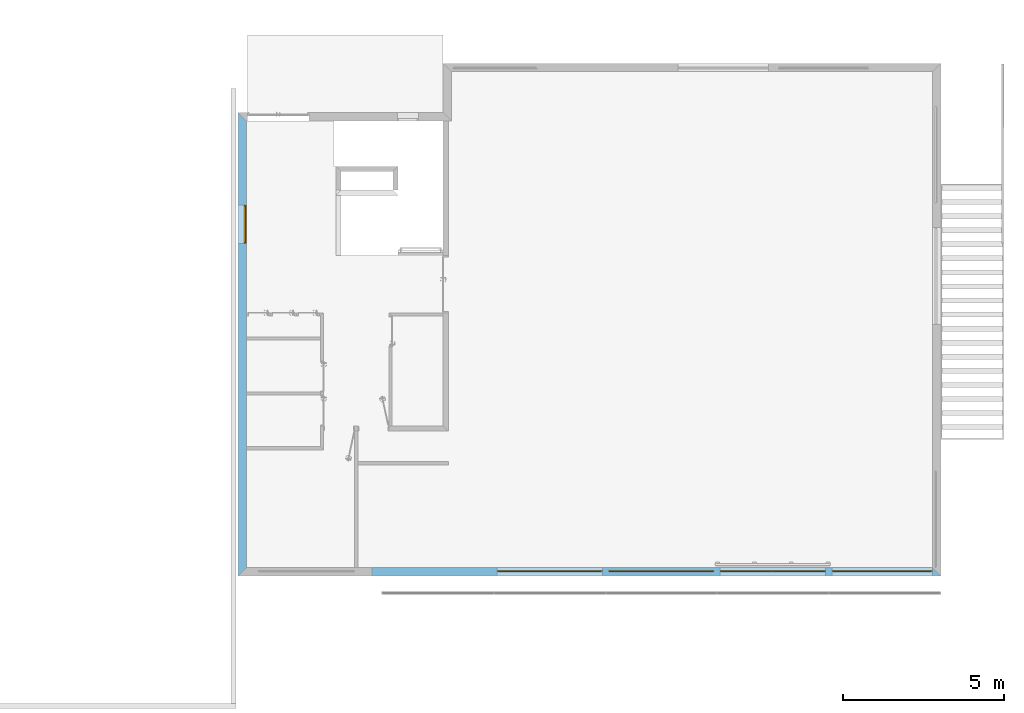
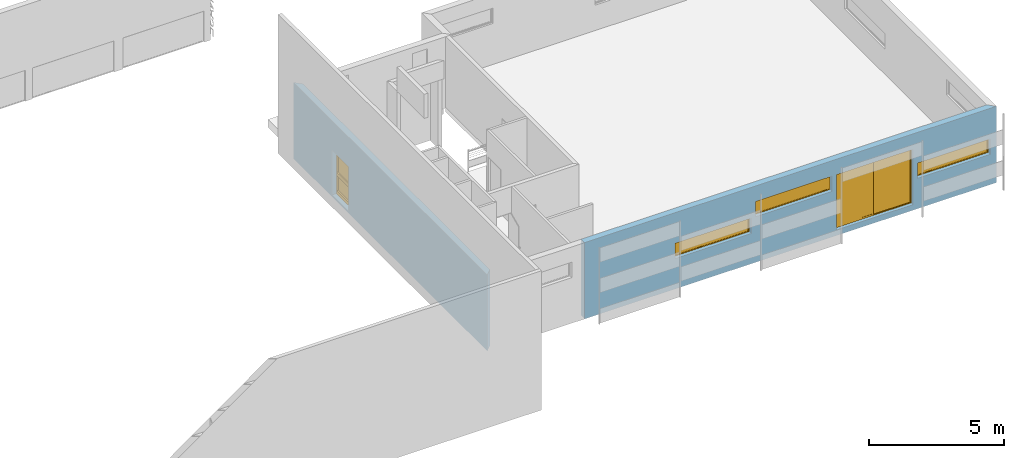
# One storey, part 8 of 14: 5 windows, 5 openings, plus 2 elements that do not belong to this part.
"""IFC2X3 building model written with IfcOpenShell, lengths in metres."""

from ifc_helpers import new_model, entity, si_unit, converted_unit, money_unit, direction, frame, origin_with_axes, place, context, subcontext, project, spatial, polyline, outline, extrude, open_shell, faceted_brep, surface_model, material, layer, layer_set, layer_usage, type_object, element, fill, save


model = new_model("IFC2X3")

# Units and contexts
model_context = context("Model", 3, precision=1e-05, world=origin_with_axes(), true_north=direction((0.0, 1.0)))
body_context = subcontext(model_context, "Body", "Model", "MODEL_VIEW")
ifc_project = project(units=[si_unit("LENGTHUNIT", "METRE"), si_unit("AREAUNIT", "SQUARE_METRE"), si_unit("VOLUMEUNIT", "CUBIC_METRE"), converted_unit("PLANEANGLEUNIT", "DEGREE", entity("IfcPlaneAngleMeasure", 0.0174532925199), si_unit("PLANEANGLEUNIT", "RADIAN"), dimensions=[0, 0, 0, 0, 0, 0, 0]), si_unit("SOLIDANGLEUNIT", "STERADIAN"), money_unit("EUR"), converted_unit("TIMEUNIT", "Year", entity("IfcTimeMeasure", 31556926.0), si_unit("TIMEUNIT", "SECOND"), dimensions=[0, 0, 0, 0, 0, 0, 0]), si_unit("MASSUNIT", "GRAM"), si_unit("THERMODYNAMICTEMPERATUREUNIT", "DEGREE_CELSIUS"), si_unit("LUMINOUSINTENSITYUNIT", "LUMEN")], contexts=[model_context])

# Site, building, storey
site_placement = place(None, origin_with_axes())
site = spatial("IfcSite", under=ifc_project, at=site_placement, Name="Site", CompositionType="ELEMENT")
building_placement = place(site_placement, origin_with_axes())
building = spatial("IfcBuilding", under=site, at=building_placement, Name="Bâtiment", CompositionType="ELEMENT")
storey_placement = place(building_placement, frame((0.0, 0.0, 3.0), z_axis=(0.0, 0.0, 1.0), x_axis=(1.0, 0.0, 0.0)))
storey = spatial("IfcBuildingStorey", under=building, at=storey_placement, Name="NIVEAU HAUT ENTRÉE", CompositionType="ELEMENT", Elevation=3.0)

# Wall, opening, window
ifc_material_1 = material(Name="Hachure solide* 2593434267")
ifc_layer_1 = layer(ifc_material_1, 0.16, ventilated="UNKNOWN")
ifc_material_2 = material(Name="Empty Fill 290923149")
ifc_layer_2 = layer(ifc_material_2, 0.08, ventilated="UNKNOWN")
ifc_material_3 = material(Name="Hachure solide* 3992800808")
ifc_layer_3 = layer(ifc_material_3, 0.02, ventilated="UNKNOWN")
ifc_layer_set_1 = layer_set([ifc_layer_1, ifc_layer_2, ifc_layer_3], Name="•GYMN 16+10 (1)")
ifc_layer_usage_1 = layer_usage(ifc_layer_set_1, "AXIS2", "POSITIVE", 0.0)
wall_type = type_object("IfcWallType", Name="•GYMN 16+10 260", PredefinedType="NOTDEFINED")
wall_1_placement = place(storey_placement, frame((45.478457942, 20.228815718, -0.25), z_axis=(0.0, 0.0, 1.0), x_axis=(0.0, -1.0, 0.0)))
wall_1 = element("IfcWallStandardCase", 1, at=wall_1_placement, inside=storey, type_object=wall_type, material=ifc_layer_usage_1, Name="Mur-004", context=body_context, shape_type="SweptSolid", body=[
    extrude(outline(polyline([(0.0, 0.0), (14.36, 0.0), (14.1, 0.26), (0.26, 0.26), (0.0, 0.0)])), origin_with_axes(), (0.0, 0.0, 1.0), 3.45),
])
opening_1_placement = place(wall_1_placement, frame((3.45885483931, 0.0, 0.1), z_axis=(0.0, 0.0, 1.0), x_axis=(1.0, 0.0, 0.0)))
opening_1 = element("IfcOpeningElement", 2, at=opening_1_placement, cuts=wall_1, Name="Fen-007", context=body_context, shape_type="SweptSolid", body=[
    extrude(outline(polyline([(0.6, -2.0), (0.6, 0.0), (-0.6, 0.0), (-0.6, -2.0), (0.6, -2.0)])), frame((0.0, 0.26, 0.0), z_axis=(0.0, 1.0, 0.0), x_axis=(1.0, 0.0, 0.0)), (0.0, 0.0, 1.0), 0.28),
    extrude(outline(polyline([(0.6, 0.0), (0.6, 2.0), (-0.6, 2.0), (-0.6, 0.0), (0.6, 0.0)])), frame((0.0, 0.26, 0.0), z_axis=(0.0, -1.0, 0.0), x_axis=(1.0, 0.0, 0.0)), (0.0, 0.0, 1.0), 0.28),
])
ifc_material_4 = material(Name="Sans Trame")
window_style_1 = type_object("IfcWindowStyle", Name="F Devanture 1 10", ConstructionType="NOTDEFINED", OperationType="USERDEFINED", ParameterTakesPrecedence=False, Sizeable=False)
window_1_placement = place(opening_1_placement, frame((-0.6, 0.0, 0.0), z_axis=(0.0, 0.0, 1.0), x_axis=(1.0, 0.0, 0.0)))
window_1 = element("IfcWindow", 3, at=window_1_placement, inside=storey, type_object=window_style_1, material=ifc_material_4, Name="Fen-007", OverallHeight=2.0, OverallWidth=1.2, context=body_context, shape_type="Brep", body=[
    faceted_brep([(0.04, 0.18, 0.825), (1.16, 0.18, 0.825), (1.16, 0.18, 0.975), (0.04, 0.18, 0.975), (0.04, 0.26, 0.825), (1.16, 0.26, 0.825), (1.16, 0.26, 0.975), (0.04, 0.26, 0.975)], [[[0, 1, 2, 3]], [[4, 5, 1, 0]], [[1, 5, 6, 2]], [[3, 2, 6, 7]], [[7, 4, 0, 3]], [[7, 6, 5, 4]]]),
    faceted_brep([(1.2, 0.26, 1.96), (1.2, 0.18, 1.96), (1.2, 0.18, 0.15), (1.2, 0.26, 0.15), (1.16, 0.26, 1.96), (1.16, 0.18, 1.96), (1.16, 0.18, 0.15), (1.16, 0.26, 0.15)], [[[0, 1, 2, 3]], [[4, 5, 1, 0]], [[1, 5, 6, 2]], [[3, 2, 6, 7]], [[0, 3, 7, 4]], [[7, 6, 5, 4]]]),
    faceted_brep([(0.0, 0.26, 0.15), (0.0, 0.18, 0.15), (0.0, 0.18, 1.96), (0.0, 0.26, 1.96), (0.04, 0.26, 0.15), (0.04, 0.18, 0.15), (0.04, 0.18, 1.96), (0.04, 0.26, 1.96)], [[[0, 1, 2, 3]], [[4, 5, 1, 0]], [[1, 5, 6, 2]], [[3, 2, 6, 7]], [[0, 3, 7, 4]], [[7, 6, 5, 4]]]),
    faceted_brep([(0.0, 0.26, 2.0), (0.0, 0.18, 2.0), (1.2, 0.18, 2.0), (1.2, 0.26, 2.0), (0.0, 0.26, 1.96), (0.0, 0.18, 1.96), (0.04, 0.18, 1.96), (1.16, 0.18, 1.96), (1.2, 0.18, 1.96), (1.2, 0.26, 1.96), (1.16, 0.26, 1.96), (0.04, 0.26, 1.96)], [[[0, 1, 2, 3]], [[4, 5, 1, 0]], [[1, 5, 6, 7, 8, 2]], [[3, 2, 8, 9]], [[0, 3, 9, 10, 11, 4]], [[11, 6, 5, 4]], [[10, 7, 6, 11]], [[9, 8, 7, 10]]]),
    faceted_brep([(0.0, 0.26, 0.15), (0.0, 0.18, 0.15), (0.04, 0.18, 0.15), (0.04, 0.26, 0.15), (0.0, 0.26, 0.0), (0.0, 0.18, 0.0), (1.2, 0.18, 0.0), (1.2, 0.18, 0.15), (1.16, 0.18, 0.15), (1.16, 0.26, 0.15), (1.2, 0.26, 0.15), (1.2, 0.26, 0.0)], [[[0, 1, 2, 3]], [[4, 5, 1, 0]], [[1, 5, 6, 7, 8, 2]], [[3, 2, 8, 9]], [[0, 3, 9, 10, 11, 4]], [[11, 6, 5, 4]], [[10, 7, 6, 11]], [[9, 8, 7, 10]]]),
    faceted_brep([(1.16, 0.25, 0.15), (1.16, 0.24, 0.15), (0.04, 0.24, 0.15), (0.04, 0.25, 0.15), (1.16, 0.25, 0.825), (1.16, 0.24, 0.825), (0.04, 0.24, 0.825), (0.04, 0.25, 0.825)], [[[0, 1, 2, 3]], [[4, 5, 1, 0]], [[1, 5, 6, 2]], [[3, 2, 6, 7]], [[0, 3, 7, 4]], [[7, 6, 5, 4]]]),
    faceted_brep([(1.16, 0.25, 0.975), (1.16, 0.24, 0.975), (0.04, 0.24, 0.975), (0.04, 0.25, 0.975), (1.16, 0.25, 1.96), (1.16, 0.24, 1.96), (0.04, 0.24, 1.96), (0.04, 0.25, 1.96)], [[[0, 1, 2, 3]], [[4, 5, 1, 0]], [[1, 5, 6, 2]], [[3, 2, 6, 7]], [[0, 3, 7, 4]], [[7, 6, 5, 4]]]),
])
fill(opening_1, window_1)

# Wall, openings, windows
ifc_layer_4 = layer(ifc_material_3, 0.02, ventilated="UNKNOWN")
ifc_layer_5 = layer(ifc_material_2, 0.08, ventilated="UNKNOWN")
ifc_layer_6 = layer(ifc_material_1, 0.16, ventilated="UNKNOWN")
ifc_layer_set_2 = layer_set([ifc_layer_4, ifc_layer_5, ifc_layer_6], Name="•GYMN 16+10")
ifc_layer_usage_2 = layer_usage(ifc_layer_set_2, "AXIS2", "POSITIVE", -0.26)
wall_2_placement = place(storey_placement, frame((67.258457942, 5.86881571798, -0.25), z_axis=(0.0, 0.0, 1.0), x_axis=(-1.0, 0.0, 0.0)))
wall_2 = element("IfcWallStandardCase", 4, at=wall_2_placement, inside=storey, type_object=wall_type, material=ifc_layer_usage_2, Name="Mur-004", context=body_context, shape_type="SweptSolid", body=[
    extrude(outline(polyline([(0.26, -0.26), (17.62, -0.26), (17.62, 0.0), (0.0, 0.0), (0.26, -0.26)])), origin_with_axes(), (0.0, 0.0, 1.0), 3.45),
])
opening_2_placement = place(wall_2_placement, frame((8.6645, 0.0, 2.0608240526), z_axis=(0.0, 0.0, 1.0), x_axis=(1.0, 0.0, 0.0)))
opening_2 = element("IfcOpeningElement", 5, at=opening_2_placement, cuts=wall_2, Name="Fen-026", context=body_context, shape_type="SweptSolid", body=[
    extrude(outline(polyline([(1.6345, 0.7), (-1.6345, 0.7), (-1.6345, 0.0), (1.6345, 0.0), (1.6345, 0.7)])), frame((0.0, -0.18, 0.0), z_axis=(0.0, 1.0, 0.0), x_axis=(-1.0, 0.0, 0.0)), (0.0, 0.0, 1.0), 0.44),
    extrude(outline(polyline([(1.6345, 0.0), (-1.6345, 0.0), (-1.6345, -0.7), (1.6345, -0.7), (1.6345, 0.0)])), frame((0.0, -0.18, 0.0), z_axis=(0.0, -1.0, 0.0), x_axis=(-1.0, 0.0, 0.0)), (0.0, 0.0, 1.0), 0.34),
])
opening_3_placement = place(wall_2_placement, frame((12.1210306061, 0.0, 1.37), z_axis=(0.0, 0.0, 1.0), x_axis=(1.0, 0.0, 0.0)))
opening_3 = element("IfcOpeningElement", 6, at=opening_3_placement, cuts=wall_2, Name="Fen-026", context=body_context, shape_type="SweptSolid", body=[
    extrude(outline(polyline([(1.635969, 0.7), (-1.635969, 0.7), (-1.635969, 0.0), (1.635969, 0.0), (1.635969, 0.7)])), frame((0.0, -0.18, 0.0), z_axis=(0.0, 1.0, 0.0), x_axis=(-1.0, 0.0, 0.0)), (0.0, 0.0, 1.0), 0.44),
    extrude(outline(polyline([(1.635969, 0.0), (-1.635969, 0.0), (-1.635969, -0.7), (1.635969, -0.7), (1.635969, 0.0)])), frame((0.0, -0.18, 0.0), z_axis=(0.0, -1.0, 0.0), x_axis=(-1.0, 0.0, 0.0)), (0.0, 0.0, 1.0), 0.34),
])
opening_4_placement = place(wall_2_placement, frame((1.8165, 0.0, 1.37), z_axis=(0.0, 0.0, 1.0), x_axis=(1.0, 0.0, 0.0)))
opening_4 = element("IfcOpeningElement", 7, at=opening_4_placement, cuts=wall_2, Name="Fen-026", context=body_context, shape_type="SweptSolid", body=[
    extrude(outline(polyline([(-1.5565, 0.7), (-1.5565, 0.0), (1.5565, 0.0), (1.5565, 0.7), (-1.5565, 0.7)])), frame((0.0, -0.18, 0.0), z_axis=(0.0, 1.0, 0.0), x_axis=(-1.0, 0.0, 0.0)), (0.0, 0.0, 1.0), 0.44),
    extrude(outline(polyline([(-1.5565, 0.0), (-1.5565, -0.7), (1.5565, -0.7), (1.5565, 0.0), (-1.5565, 0.0)])), frame((0.0, -0.18, 0.0), z_axis=(0.0, -1.0, 0.0), x_axis=(-1.0, 0.0, 0.0)), (0.0, 0.0, 1.0), 0.34),
])
opening_5_placement = place(wall_2_placement, frame((5.20601755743, 0.0, 0.25), z_axis=(0.0, 0.0, 1.0), x_axis=(1.0, 0.0, 0.0)))
opening_5 = element("IfcOpeningElement", 8, at=opening_5_placement, cuts=wall_2, Name="Fen-026", context=body_context, shape_type="SweptSolid", body=[
    extrude(outline(polyline([(1.64, 2.510824), (-1.64, 2.510824), (-1.64, 0.0), (1.64, 0.0), (1.64, 2.510824)])), frame((0.0, -0.18, 0.0), z_axis=(0.0, 1.0, 0.0), x_axis=(-1.0, 0.0, 0.0)), (0.0, 0.0, 1.0), 0.44),
    extrude(outline(polyline([(1.64, 0.0), (-1.64, 0.0), (-1.64, -2.510824), (1.64, -2.510824), (1.64, 0.0)])), frame((0.0, -0.18, 0.0), z_axis=(0.0, -1.0, 0.0), x_axis=(-1.0, 0.0, 0.0)), (0.0, 0.0, 1.0), 0.34),
])
window_style_2 = type_object("IfcWindowStyle", Name="Fen double hor coul 10", ConstructionType="NOTDEFINED", OperationType="DOUBLE_PANEL_VERTICAL", ParameterTakesPrecedence=False, Sizeable=False)
window_2_placement = place(opening_5_placement, frame((1.64, 0.0, 0.0), z_axis=(0.0, 0.0, 1.0), x_axis=(-1.0, 0.0, 0.0)))
window_2 = element("IfcWindow", 9, at=window_2_placement, inside=storey, type_object=window_style_2, material=ifc_material_4, Name="Fen-026", OverallHeight=2.51082, OverallWidth=3.28, context=body_context, shape_type="SurfaceModel", body=[
    faceted_brep([(3.24, 0.18, 0.04), (3.24, 0.13, 0.04), (3.24, 0.13, 2.470824), (3.24, 0.18, 2.470824), (3.28, 0.18, 0.04), (3.28, 0.13, 0.04), (3.28, 0.13, 2.470824), (3.28, 0.18, 2.470824)], [[[0, 1, 2, 3]], [[4, 5, 1, 0]], [[1, 5, 6, 2]], [[3, 2, 6, 7]], [[0, 3, 7, 4]], [[7, 6, 5, 4]]]),
    faceted_brep([(0.0, 0.18, 0.04), (0.0, 0.13, 0.04), (0.0, 0.13, 2.470824), (0.0, 0.18, 2.470824), (0.04, 0.18, 0.04), (0.04, 0.13, 0.04), (0.04, 0.13, 2.470824), (0.04, 0.18, 2.470824)], [[[0, 1, 2, 3]], [[4, 5, 1, 0]], [[1, 5, 6, 2]], [[3, 2, 6, 7]], [[0, 3, 7, 4]], [[7, 6, 5, 4]]]),
    faceted_brep([(3.28, 0.18, 0.0), (3.28, 0.13, 0.0), (0.0, 0.13, 0.0), (0.0, 0.18, 0.0), (3.28, 0.18, 0.04), (3.28, 0.13, 0.04), (3.24, 0.13, 0.04), (0.04, 0.13, 0.04), (0.0, 0.13, 0.04), (0.0, 0.18, 0.04), (0.04, 0.18, 0.04), (3.24, 0.18, 0.04)], [[[0, 1, 2, 3]], [[4, 5, 1, 0]], [[1, 5, 6, 7, 8, 2]], [[3, 2, 8, 9]], [[0, 3, 9, 10, 11, 4]], [[11, 6, 5, 4]], [[10, 7, 6, 11]], [[9, 8, 7, 10]]]),
    faceted_brep([(3.28, 0.18, 2.470824), (3.28, 0.13, 2.470824), (3.24, 0.13, 2.470824), (3.24, 0.18, 2.470824), (3.28, 0.18, 2.510824), (3.28, 0.13, 2.510824), (0.0, 0.13, 2.510824), (0.0, 0.13, 2.470824), (0.04, 0.13, 2.470824), (0.04, 0.18, 2.470824), (0.0, 0.18, 2.470824), (0.0, 0.18, 2.510824)], [[[0, 1, 2, 3]], [[4, 5, 1, 0]], [[1, 5, 6, 7, 8, 2]], [[3, 2, 8, 9]], [[0, 3, 9, 10, 11, 4]], [[11, 6, 5, 4]], [[10, 7, 6, 11]], [[9, 8, 7, 10]]]),
    faceted_brep([(3.2, 0.18, 0.08), (3.2, 0.155, 0.08), (3.2, 0.155, 2.430824), (3.2, 0.18, 2.430824), (3.24, 0.18, 0.08), (3.24, 0.155, 0.08), (3.24, 0.155, 2.430824), (3.24, 0.18, 2.430824)], [[[0, 1, 2, 3]], [[4, 5, 1, 0]], [[1, 5, 6, 2]], [[3, 2, 6, 7]], [[0, 3, 7, 4]], [[7, 6, 5, 4]]]),
    faceted_brep([(1.62, 0.18, 0.08), (1.62, 0.155, 0.08), (1.62, 0.155, 2.430824), (1.62, 0.18, 2.430824), (1.66, 0.18, 0.08), (1.66, 0.155, 0.08), (1.66, 0.155, 2.430824), (1.66, 0.18, 2.430824)], [[[0, 1, 2, 3]], [[4, 5, 1, 0]], [[1, 5, 6, 2]], [[3, 2, 6, 7]], [[0, 3, 7, 4]], [[7, 6, 5, 4]]]),
    faceted_brep([(1.62, 0.18, 0.04), (1.62, 0.155, 0.04), (1.62, 0.155, 0.08), (1.62, 0.18, 0.08), (3.24, 0.18, 0.04), (3.24, 0.155, 0.04), (3.24, 0.155, 0.08), (3.2, 0.155, 0.08), (1.66, 0.155, 0.08), (1.66, 0.18, 0.08), (3.2, 0.18, 0.08), (3.24, 0.18, 0.08)], [[[0, 1, 2, 3]], [[4, 5, 1, 0]], [[1, 5, 6, 7, 8, 2]], [[3, 2, 8, 9]], [[0, 3, 9, 10, 11, 4]], [[11, 6, 5, 4]], [[10, 7, 6, 11]], [[9, 8, 7, 10]]]),
    faceted_brep([(3.24, 0.18, 2.470824), (3.24, 0.155, 2.470824), (3.24, 0.155, 2.430824), (3.24, 0.18, 2.430824), (1.62, 0.18, 2.470824), (1.62, 0.155, 2.470824), (1.62, 0.155, 2.430824), (1.66, 0.155, 2.430824), (3.2, 0.155, 2.430824), (3.2, 0.18, 2.430824), (1.66, 0.18, 2.430824), (1.62, 0.18, 2.430824)], [[[0, 1, 2, 3]], [[4, 5, 1, 0]], [[1, 5, 6, 7, 8, 2]], [[3, 2, 8, 9]], [[0, 3, 9, 10, 11, 4]], [[11, 6, 5, 4]], [[10, 7, 6, 11]], [[9, 8, 7, 10]]]),
    surface_model("IfcShellBasedSurfaceModel", [(3.2, 0.1775, 0.08), (1.66, 0.1775, 0.08), (1.66, 0.1775, 2.430824), (3.2, 0.1775, 2.430824)], [open_shell([[[0, 1, 2, 3]]])]),
    surface_model("IfcShellBasedSurfaceModel", [(3.2, 0.1575, 0.08), (3.2, 0.1575, 2.430824), (1.66, 0.1575, 2.430824), (1.66, 0.1575, 0.08)], [open_shell([[[0, 1, 2, 3]]])]),
    faceted_brep([(1.62, 0.155, 0.08), (1.62, 0.13, 0.08), (1.62, 0.13, 2.430824), (1.62, 0.155, 2.430824), (1.66, 0.155, 0.08), (1.66, 0.13, 0.08), (1.66, 0.13, 2.430824), (1.66, 0.155, 2.430824)], [[[0, 1, 2, 3]], [[4, 5, 1, 0]], [[1, 5, 6, 2]], [[3, 2, 6, 7]], [[0, 3, 7, 4]], [[7, 6, 5, 4]]]),
    faceted_brep([(0.04, 0.155, 0.08), (0.04, 0.13, 0.08), (0.04, 0.13, 2.430824), (0.04, 0.155, 2.430824), (0.08, 0.155, 0.08), (0.08, 0.13, 0.08), (0.08, 0.13, 2.430824), (0.08, 0.155, 2.430824)], [[[0, 1, 2, 3]], [[4, 5, 1, 0]], [[1, 5, 6, 2]], [[3, 2, 6, 7]], [[0, 3, 7, 4]], [[7, 6, 5, 4]]]),
    faceted_brep([(0.04, 0.155, 0.04), (0.04, 0.13, 0.04), (0.04, 0.13, 0.08), (0.04, 0.155, 0.08), (1.66, 0.155, 0.04), (1.66, 0.13, 0.04), (1.66, 0.13, 0.08), (1.62, 0.13, 0.08), (0.08, 0.13, 0.08), (0.08, 0.155, 0.08), (1.62, 0.155, 0.08), (1.66, 0.155, 0.08)], [[[0, 1, 2, 3]], [[4, 5, 1, 0]], [[1, 5, 6, 7, 8, 2]], [[3, 2, 8, 9]], [[0, 3, 9, 10, 11, 4]], [[11, 6, 5, 4]], [[10, 7, 6, 11]], [[9, 8, 7, 10]]]),
    faceted_brep([(1.66, 0.155, 2.470824), (1.66, 0.13, 2.470824), (1.66, 0.13, 2.430824), (1.66, 0.155, 2.430824), (0.04, 0.155, 2.470824), (0.04, 0.13, 2.470824), (0.04, 0.13, 2.430824), (0.08, 0.13, 2.430824), (1.62, 0.13, 2.430824), (1.62, 0.155, 2.430824), (0.08, 0.155, 2.430824), (0.04, 0.155, 2.430824)], [[[0, 1, 2, 3]], [[4, 5, 1, 0]], [[1, 5, 6, 7, 8, 2]], [[3, 2, 8, 9]], [[0, 3, 9, 10, 11, 4]], [[11, 6, 5, 4]], [[10, 7, 6, 11]], [[9, 8, 7, 10]]]),
    surface_model("IfcShellBasedSurfaceModel", [(1.62, 0.1525, 0.08), (0.08, 0.1525, 0.08), (0.08, 0.1525, 2.430824), (1.62, 0.1525, 2.430824)], [open_shell([[[0, 1, 2, 3]]])]),
    surface_model("IfcShellBasedSurfaceModel", [(1.62, 0.1325, 0.08), (1.62, 0.1325, 2.430824), (0.08, 0.1325, 2.430824), (0.08, 0.1325, 0.08)], [open_shell([[[0, 1, 2, 3]]])]),
])
fill(opening_5, window_2)
window_style_3 = type_object("IfcWindowStyle", Name="Fen bascule 1 10", ConstructionType="NOTDEFINED", OperationType="SINGLE_PANEL", ParameterTakesPrecedence=False, Sizeable=False)
window_3_placement = place(opening_2_placement, frame((1.6345, 0.0, 0.0), z_axis=(0.0, 0.0, 1.0), x_axis=(-1.0, 0.0, 0.0)))
window_3 = element("IfcWindow", 10, at=window_3_placement, inside=storey, type_object=window_style_3, material=ifc_material_4, Name="Fen-026", OverallHeight=0.7, OverallWidth=3.269, context=body_context, shape_type="SurfaceModel", body=[
    faceted_brep([(3.249, 0.14, 0.66), (3.269, 0.14, 0.66), (3.269, 0.18, 0.66), (3.229, 0.18, 0.66), (3.229, 0.16, 0.66), (3.249, 0.16, 0.66), (3.249, 0.14, 0.04), (3.269, 0.14, 0.04), (3.269, 0.18, 0.04), (3.229, 0.18, 0.04), (3.229, 0.16, 0.04), (3.249, 0.16, 0.04)], [[[0, 1, 2, 3, 4, 5]], [[6, 7, 1, 0]], [[1, 7, 8, 2]], [[2, 8, 9, 3]], [[4, 3, 9, 10]], [[10, 11, 5, 4]], [[5, 11, 6, 0]], [[11, 10, 9, 8, 7, 6]]]),
    faceted_brep([(0.04, 0.16, 0.66), (0.04, 0.18, 0.66), (0.0, 0.18, 0.66), (0.0, 0.14, 0.66), (0.02, 0.14, 0.66), (0.02, 0.16, 0.66), (0.04, 0.16, 0.04), (0.04, 0.18, 0.04), (0.0, 0.18, 0.04), (0.0, 0.14, 0.04), (0.02, 0.14, 0.04), (0.02, 0.16, 0.04)], [[[0, 1, 2, 3, 4, 5]], [[6, 7, 1, 0]], [[8, 2, 1, 7]], [[9, 3, 2, 8]], [[4, 3, 9, 10]], [[10, 11, 5, 4]], [[5, 11, 6, 0]], [[11, 10, 9, 8, 7, 6]]]),
    faceted_brep([(3.249, 0.14, 0.66), (3.269, 0.14, 0.66), (3.269, 0.14, 0.7), (0.0, 0.14, 0.7), (0.0, 0.14, 0.66), (0.02, 0.14, 0.66), (0.02, 0.14, 0.68), (3.249, 0.14, 0.68), (3.249, 0.16, 0.66), (3.229, 0.16, 0.66), (3.229, 0.18, 0.66), (3.269, 0.18, 0.66), (3.269, 0.18, 0.7), (0.0, 0.18, 0.7), (0.0, 0.18, 0.66), (0.02, 0.16, 0.66), (0.04, 0.18, 0.66), (0.04, 0.16, 0.66), (0.02, 0.16, 0.68), (3.249, 0.16, 0.68)], [[[0, 1, 2, 3, 4, 5, 6, 7]], [[8, 9, 10, 11, 1, 0]], [[2, 1, 11, 12]], [[3, 2, 12, 13]], [[4, 3, 13, 14]], [[15, 5, 4, 14, 16, 17]], [[5, 15, 18, 6]], [[6, 18, 19, 7]], [[7, 19, 8, 0]], [[17, 9, 8, 19, 18, 15]], [[17, 16, 10, 9]], [[14, 13, 12, 11, 10, 16]]]),
    faceted_brep([(0.04, 0.16, 0.04), (0.04, 0.18, 0.04), (0.0, 0.18, 0.04), (0.0, 0.14, 0.04), (0.02, 0.14, 0.04), (0.02, 0.16, 0.04), (3.229, 0.16, 0.04), (3.229, 0.18, 0.04), (3.269, 0.18, 0.04), (3.269, 0.18, 0.0), (0.0, 0.18, 0.0), (0.0, 0.14, 0.0), (3.249, 0.14, 0.02), (0.02, 0.14, 0.02), (3.269, 0.14, 0.0), (3.269, 0.14, 0.04), (3.249, 0.14, 0.04), (0.02, 0.16, 0.02), (3.249, 0.16, 0.02), (3.249, 0.16, 0.04)], [[[0, 1, 2, 3, 4, 5]], [[6, 7, 1, 0]], [[8, 9, 10, 2, 1, 7]], [[11, 3, 2, 10]], [[12, 13, 4, 3, 11, 14, 15, 16]], [[13, 17, 5, 4]], [[5, 17, 18, 19, 6, 0]], [[19, 16, 15, 8, 7, 6]], [[15, 14, 9, 8]], [[14, 11, 10, 9]], [[12, 18, 17, 13]], [[19, 18, 12, 16]]]),
    faceted_brep([(0.06, 0.16, 0.06), (0.06, 0.16, 0.64), (0.06, 0.12, 0.64), (0.06, 0.12, 0.06), (0.02, 0.16, 0.06), (0.02, 0.16, 0.64), (0.02, 0.12, 0.64), (0.02, 0.12, 0.06)], [[[0, 1, 2, 3]], [[0, 4, 5, 1]], [[1, 5, 6, 2]], [[3, 2, 6, 7]], [[4, 0, 3, 7]], [[5, 4, 7, 6]]]),
    faceted_brep([(3.249, 0.16, 0.06), (3.249, 0.16, 0.64), (3.249, 0.12, 0.64), (3.249, 0.12, 0.06), (3.209, 0.16, 0.06), (3.209, 0.16, 0.64), (3.209, 0.12, 0.64), (3.209, 0.12, 0.06)], [[[0, 1, 2, 3]], [[0, 4, 5, 1]], [[1, 5, 6, 2]], [[3, 2, 6, 7]], [[4, 0, 3, 7]], [[5, 4, 7, 6]]]),
    faceted_brep([(3.249, 0.16, 0.02), (3.249, 0.16, 0.06), (3.249, 0.12, 0.06), (3.249, 0.12, 0.02), (0.02, 0.16, 0.02), (0.02, 0.16, 0.06), (0.06, 0.16, 0.06), (3.209, 0.16, 0.06), (3.209, 0.12, 0.06), (0.06, 0.12, 0.06), (0.02, 0.12, 0.06), (0.02, 0.12, 0.02)], [[[0, 1, 2, 3]], [[0, 4, 5, 6, 7, 1]], [[1, 7, 8, 2]], [[3, 2, 8, 9, 10, 11]], [[4, 0, 3, 11]], [[5, 4, 11, 10]], [[6, 5, 10, 9]], [[7, 6, 9, 8]]]),
    faceted_brep([(0.02, 0.16, 0.68), (0.02, 0.16, 0.64), (0.02, 0.12, 0.64), (0.02, 0.12, 0.68), (3.249, 0.16, 0.68), (3.249, 0.16, 0.64), (3.209, 0.16, 0.64), (0.06, 0.16, 0.64), (0.06, 0.12, 0.64), (3.209, 0.12, 0.64), (3.249, 0.12, 0.64), (3.249, 0.12, 0.68)], [[[0, 1, 2, 3]], [[0, 4, 5, 6, 7, 1]], [[1, 7, 8, 2]], [[3, 2, 8, 9, 10, 11]], [[4, 0, 3, 11]], [[5, 4, 11, 10]], [[6, 5, 10, 9]], [[7, 6, 9, 8]]]),
    surface_model("IfcShellBasedSurfaceModel", [(0.06, 0.15, 0.06), (0.06, 0.15, 0.64), (3.209, 0.15, 0.64), (3.209, 0.15, 0.06)], [open_shell([[[0, 1, 2, 3]]])]),
    surface_model("IfcShellBasedSurfaceModel", [(0.06, 0.13, 0.06), (3.209, 0.13, 0.06), (3.209, 0.13, 0.64), (0.06, 0.13, 0.64)], [open_shell([[[0, 1, 2, 3]]])]),
])
fill(opening_2, window_3)
window_4_placement = place(opening_3_placement, frame((1.6359693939, 0.0, 0.0), z_axis=(0.0, 0.0, 1.0), x_axis=(-1.0, 0.0, 0.0)))
window_4 = element("IfcWindow", 11, at=window_4_placement, inside=storey, type_object=window_style_3, material=ifc_material_4, Name="Fen-026", OverallHeight=0.7, OverallWidth=3.27194, context=body_context, shape_type="SurfaceModel", body=[
    faceted_brep([(3.25193900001, 0.14, 0.66), (3.27193900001, 0.14, 0.66), (3.27193900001, 0.18, 0.66), (3.231939, 0.18, 0.66), (3.231939, 0.16, 0.66), (3.25193900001, 0.16, 0.66), (3.25193900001, 0.14, 0.04), (3.27193900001, 0.14, 0.04), (3.27193900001, 0.18, 0.04), (3.231939, 0.18, 0.04), (3.231939, 0.16, 0.04), (3.25193900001, 0.16, 0.04)], [[[0, 1, 2, 3, 4, 5]], [[6, 7, 1, 0]], [[1, 7, 8, 2]], [[2, 8, 9, 3]], [[4, 3, 9, 10]], [[10, 11, 5, 4]], [[5, 11, 6, 0]], [[11, 10, 9, 8, 7, 6]]]),
    faceted_brep([(0.040000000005, 0.16, 0.66), (0.040000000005, 0.18, 0.66), (0.0, 0.18, 0.66), (0.0, 0.14, 0.66), (0.020000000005, 0.14, 0.66), (0.020000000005, 0.16, 0.66), (0.040000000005, 0.16, 0.04), (0.040000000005, 0.18, 0.04), (0.0, 0.18, 0.04), (0.0, 0.14, 0.04), (0.020000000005, 0.14, 0.04), (0.020000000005, 0.16, 0.04)], [[[0, 1, 2, 3, 4, 5]], [[6, 7, 1, 0]], [[8, 2, 1, 7]], [[9, 3, 2, 8]], [[4, 3, 9, 10]], [[10, 11, 5, 4]], [[5, 11, 6, 0]], [[11, 10, 9, 8, 7, 6]]]),
    faceted_brep([(3.25193900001, 0.14, 0.66), (3.27193900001, 0.14, 0.66), (3.27193900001, 0.14, 0.7), (0.0, 0.14, 0.7), (0.0, 0.14, 0.66), (0.020000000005, 0.14, 0.66), (0.020000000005, 0.14, 0.68), (3.25193900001, 0.14, 0.68), (3.25193900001, 0.16, 0.66), (3.231939, 0.16, 0.66), (3.231939, 0.18, 0.66), (3.27193900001, 0.18, 0.66), (3.27193900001, 0.18, 0.7), (0.0, 0.18, 0.7), (0.0, 0.18, 0.66), (0.020000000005, 0.16, 0.66), (0.040000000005, 0.18, 0.66), (0.040000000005, 0.16, 0.66), (0.020000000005, 0.16, 0.68), (3.25193900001, 0.16, 0.68)], [[[0, 1, 2, 3, 4, 5, 6, 7]], [[8, 9, 10, 11, 1, 0]], [[2, 1, 11, 12]], [[3, 2, 12, 13]], [[4, 3, 13, 14]], [[15, 5, 4, 14, 16, 17]], [[5, 15, 18, 6]], [[6, 18, 19, 7]], [[7, 19, 8, 0]], [[17, 9, 8, 19, 18, 15]], [[17, 16, 10, 9]], [[14, 13, 12, 11, 10, 16]]]),
    faceted_brep([(0.040000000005, 0.16, 0.04), (0.040000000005, 0.18, 0.04), (0.0, 0.18, 0.04), (0.0, 0.14, 0.04), (0.020000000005, 0.14, 0.04), (0.020000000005, 0.16, 0.04), (3.231939, 0.16, 0.04), (3.231939, 0.18, 0.04), (3.27193900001, 0.18, 0.04), (3.27193900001, 0.18, 0.0), (0.0, 0.18, 0.0), (0.0, 0.14, 0.0), (3.25193900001, 0.14, 0.02), (0.020000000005, 0.14, 0.02), (3.27193900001, 0.14, 0.0), (3.27193900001, 0.14, 0.04), (3.25193900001, 0.14, 0.04), (0.020000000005, 0.16, 0.02), (3.25193900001, 0.16, 0.02), (3.25193900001, 0.16, 0.04)], [[[0, 1, 2, 3, 4, 5]], [[6, 7, 1, 0]], [[8, 9, 10, 2, 1, 7]], [[11, 3, 2, 10]], [[12, 13, 4, 3, 11, 14, 15, 16]], [[13, 17, 5, 4]], [[5, 17, 18, 19, 6, 0]], [[19, 16, 15, 8, 7, 6]], [[15, 14, 9, 8]], [[14, 11, 10, 9]], [[12, 18, 17, 13]], [[19, 18, 12, 16]]]),
    faceted_brep([(0.060000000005, 0.16, 0.06), (0.060000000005, 0.16, 0.64), (0.060000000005, 0.12, 0.64), (0.060000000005, 0.12, 0.06), (0.020000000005, 0.16, 0.06), (0.020000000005, 0.16, 0.64), (0.020000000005, 0.12, 0.64), (0.020000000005, 0.12, 0.06)], [[[0, 1, 2, 3]], [[0, 4, 5, 1]], [[1, 5, 6, 2]], [[3, 2, 6, 7]], [[4, 0, 3, 7]], [[5, 4, 7, 6]]]),
    faceted_brep([(3.25193900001, 0.16, 0.06), (3.25193900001, 0.16, 0.64), (3.25193900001, 0.12, 0.64), (3.25193900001, 0.12, 0.06), (3.21193900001, 0.16, 0.06), (3.21193900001, 0.16, 0.64), (3.21193900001, 0.12, 0.64), (3.21193900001, 0.12, 0.06)], [[[0, 1, 2, 3]], [[0, 4, 5, 1]], [[1, 5, 6, 2]], [[3, 2, 6, 7]], [[4, 0, 3, 7]], [[5, 4, 7, 6]]]),
    faceted_brep([(3.25193900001, 0.16, 0.02), (3.25193900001, 0.16, 0.06), (3.25193900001, 0.12, 0.06), (3.25193900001, 0.12, 0.02), (0.020000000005, 0.16, 0.02), (0.020000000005, 0.16, 0.06), (0.060000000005, 0.16, 0.06), (3.21193900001, 0.16, 0.06), (3.21193900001, 0.12, 0.06), (0.060000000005, 0.12, 0.06), (0.020000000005, 0.12, 0.06), (0.020000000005, 0.12, 0.02)], [[[0, 1, 2, 3]], [[0, 4, 5, 6, 7, 1]], [[1, 7, 8, 2]], [[3, 2, 8, 9, 10, 11]], [[4, 0, 3, 11]], [[5, 4, 11, 10]], [[6, 5, 10, 9]], [[7, 6, 9, 8]]]),
    faceted_brep([(0.020000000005, 0.16, 0.68), (0.020000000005, 0.16, 0.64), (0.020000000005, 0.12, 0.64), (0.020000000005, 0.12, 0.68), (3.25193900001, 0.16, 0.68), (3.25193900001, 0.16, 0.64), (3.21193900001, 0.16, 0.64), (0.060000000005, 0.16, 0.64), (0.060000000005, 0.12, 0.64), (3.21193900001, 0.12, 0.64), (3.25193900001, 0.12, 0.64), (3.25193900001, 0.12, 0.68)], [[[0, 1, 2, 3]], [[0, 4, 5, 6, 7, 1]], [[1, 7, 8, 2]], [[3, 2, 8, 9, 10, 11]], [[4, 0, 3, 11]], [[5, 4, 11, 10]], [[6, 5, 10, 9]], [[7, 6, 9, 8]]]),
    surface_model("IfcShellBasedSurfaceModel", [(0.060000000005, 0.15, 0.06), (0.060000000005, 0.15, 0.64), (3.21193900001, 0.15, 0.64), (3.21193900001, 0.15, 0.06)], [open_shell([[[0, 1, 2, 3]]])]),
    surface_model("IfcShellBasedSurfaceModel", [(0.060000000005, 0.13, 0.06), (3.21193900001, 0.13, 0.06), (3.21193900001, 0.13, 0.64), (0.060000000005, 0.13, 0.64)], [open_shell([[[0, 1, 2, 3]]])]),
])
fill(opening_3, window_4)
window_5_placement = place(opening_4_placement, frame((1.5565, 0.0, 0.0), z_axis=(0.0, 0.0, 1.0), x_axis=(-1.0, 0.0, 0.0)))
window_5 = element("IfcWindow", 12, at=window_5_placement, inside=storey, type_object=window_style_3, material=ifc_material_4, Name="Fen-026", OverallHeight=0.7, OverallWidth=3.113, context=body_context, shape_type="SurfaceModel", body=[
    faceted_brep([(0.02, 0.14, 0.66), (0.02, 0.16, 0.66), (0.04, 0.16, 0.66), (0.04, 0.18, 0.66), (0.0, 0.18, 0.66), (0.0, 0.14, 0.66), (0.02, 0.14, 0.04), (0.02, 0.16, 0.04), (0.04, 0.16, 0.04), (0.04, 0.18, 0.04), (0.0, 0.18, 0.04), (0.0, 0.14, 0.04)], [[[0, 1, 2, 3, 4, 5]], [[1, 0, 6, 7]], [[8, 2, 1, 7]], [[2, 8, 9, 3]], [[4, 3, 9, 10]], [[5, 4, 10, 11]], [[6, 0, 5, 11]], [[7, 6, 11, 10, 9, 8]]]),
    faceted_brep([(3.073, 0.16, 0.66), (3.093, 0.16, 0.66), (3.093, 0.14, 0.66), (3.113, 0.14, 0.66), (3.113, 0.18, 0.66), (3.073, 0.18, 0.66), (3.073, 0.16, 0.04), (3.093, 0.16, 0.04), (3.093, 0.14, 0.04), (3.113, 0.14, 0.04), (3.113, 0.18, 0.04), (3.073, 0.18, 0.04)], [[[0, 1, 2, 3, 4, 5]], [[1, 0, 6, 7]], [[8, 2, 1, 7]], [[2, 8, 9, 3]], [[9, 10, 4, 3]], [[10, 11, 5, 4]], [[6, 0, 5, 11]], [[7, 6, 11, 10, 9, 8]]]),
    faceted_brep([(0.02, 0.14, 0.66), (0.02, 0.14, 0.68), (3.093, 0.14, 0.68), (3.093, 0.14, 0.66), (3.113, 0.14, 0.66), (3.113, 0.14, 0.7), (0.0, 0.14, 0.7), (0.0, 0.14, 0.66), (0.02, 0.16, 0.66), (0.02, 0.16, 0.68), (3.093, 0.16, 0.68), (3.093, 0.16, 0.66), (3.073, 0.16, 0.66), (3.073, 0.18, 0.66), (3.113, 0.18, 0.66), (3.113, 0.18, 0.7), (0.0, 0.18, 0.7), (0.0, 0.18, 0.66), (0.04, 0.18, 0.66), (0.04, 0.16, 0.66)], [[[0, 1, 2, 3, 4, 5, 6, 7]], [[1, 0, 8, 9]], [[2, 1, 9, 10]], [[3, 2, 10, 11]], [[11, 12, 13, 14, 4, 3]], [[4, 14, 15, 5]], [[5, 15, 16, 6]], [[6, 16, 17, 7]], [[8, 0, 7, 17, 18, 19]], [[12, 11, 10, 9, 8, 19]], [[12, 19, 18, 13]], [[14, 13, 18, 17, 16, 15]]]),
    faceted_brep([(3.073, 0.16, 0.04), (3.093, 0.16, 0.04), (3.093, 0.14, 0.04), (3.113, 0.14, 0.04), (3.113, 0.18, 0.04), (3.073, 0.18, 0.04), (0.04, 0.16, 0.04), (0.02, 0.16, 0.04), (0.02, 0.16, 0.02), (3.093, 0.16, 0.02), (3.093, 0.14, 0.02), (0.02, 0.14, 0.02), (0.02, 0.14, 0.04), (0.0, 0.14, 0.04), (0.0, 0.14, 0.0), (3.113, 0.14, 0.0), (3.113, 0.18, 0.0), (0.0, 0.18, 0.04), (0.04, 0.18, 0.04), (0.0, 0.18, 0.0)], [[[0, 1, 2, 3, 4, 5]], [[1, 0, 6, 7, 8, 9]], [[10, 2, 1, 9]], [[11, 12, 13, 14, 15, 3, 2, 10]], [[15, 16, 4, 3]], [[17, 18, 5, 4, 16, 19]], [[6, 0, 5, 18]], [[7, 6, 18, 17, 13, 12]], [[7, 12, 11, 8]], [[11, 10, 9, 8]], [[13, 17, 19, 14]], [[14, 19, 16, 15]]]),
    faceted_brep([(3.053, 0.16, 0.06), (3.053, 0.12, 0.06), (3.053, 0.12, 0.64), (3.053, 0.16, 0.64), (3.093, 0.16, 0.06), (3.093, 0.12, 0.06), (3.093, 0.12, 0.64), (3.093, 0.16, 0.64)], [[[0, 1, 2, 3]], [[4, 5, 1, 0]], [[1, 5, 6, 2]], [[3, 2, 6, 7]], [[0, 3, 7, 4]], [[7, 6, 5, 4]]]),
    faceted_brep([(0.02, 0.16, 0.06), (0.02, 0.12, 0.06), (0.02, 0.12, 0.64), (0.02, 0.16, 0.64), (0.06, 0.16, 0.06), (0.06, 0.12, 0.06), (0.06, 0.12, 0.64), (0.06, 0.16, 0.64)], [[[0, 1, 2, 3]], [[4, 5, 1, 0]], [[1, 5, 6, 2]], [[3, 2, 6, 7]], [[0, 3, 7, 4]], [[7, 6, 5, 4]]]),
    faceted_brep([(0.02, 0.16, 0.02), (0.02, 0.12, 0.02), (0.02, 0.12, 0.06), (0.02, 0.16, 0.06), (3.093, 0.16, 0.02), (3.093, 0.12, 0.02), (3.093, 0.12, 0.06), (3.053, 0.12, 0.06), (0.06, 0.12, 0.06), (0.06, 0.16, 0.06), (3.053, 0.16, 0.06), (3.093, 0.16, 0.06)], [[[0, 1, 2, 3]], [[4, 5, 1, 0]], [[1, 5, 6, 7, 8, 2]], [[3, 2, 8, 9]], [[0, 3, 9, 10, 11, 4]], [[11, 6, 5, 4]], [[10, 7, 6, 11]], [[9, 8, 7, 10]]]),
    faceted_brep([(3.093, 0.16, 0.68), (3.093, 0.12, 0.68), (3.093, 0.12, 0.64), (3.093, 0.16, 0.64), (0.02, 0.16, 0.68), (0.02, 0.12, 0.68), (0.02, 0.12, 0.64), (0.06, 0.12, 0.64), (3.053, 0.12, 0.64), (3.053, 0.16, 0.64), (0.06, 0.16, 0.64), (0.02, 0.16, 0.64)], [[[0, 1, 2, 3]], [[4, 5, 1, 0]], [[1, 5, 6, 7, 8, 2]], [[3, 2, 8, 9]], [[0, 3, 9, 10, 11, 4]], [[11, 6, 5, 4]], [[10, 7, 6, 11]], [[9, 8, 7, 10]]]),
    surface_model("IfcShellBasedSurfaceModel", [(3.053, 0.15, 0.06), (0.06, 0.15, 0.06), (0.06, 0.15, 0.64), (3.053, 0.15, 0.64)], [open_shell([[[0, 1, 2, 3]]])]),
    surface_model("IfcShellBasedSurfaceModel", [(3.053, 0.13, 0.06), (3.053, 0.13, 0.64), (0.06, 0.13, 0.64), (0.06, 0.13, 0.06)], [open_shell([[[0, 1, 2, 3]]])]),
])
fill(opening_4, window_5)

save(model, "model.ifc")
